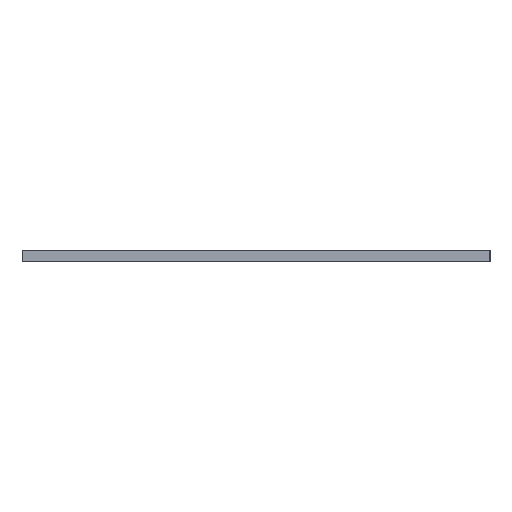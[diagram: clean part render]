
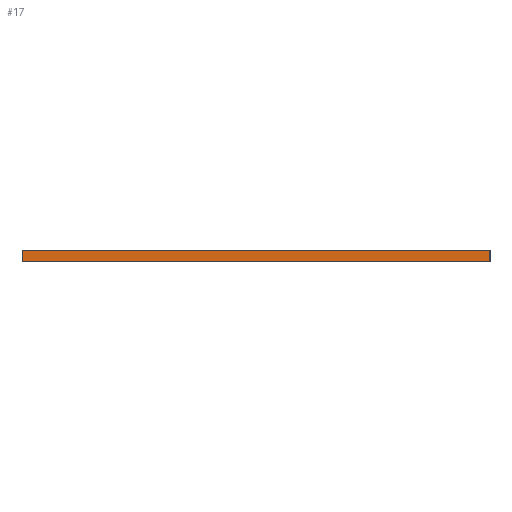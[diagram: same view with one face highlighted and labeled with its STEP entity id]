
A CAD part, left-side view. The second image highlights one B-rep face of the part: STEP entity #17.
In plain terms, the highlighted planar face has unit normal (-1, 0, 0).
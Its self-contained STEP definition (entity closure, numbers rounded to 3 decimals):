
#17 = ADVANCED_FACE('',(#18),#32,.F.);
#18 = FACE_BOUND('',#19,.F.);
#19 = EDGE_LOOP('',(#20,#55,#83,#111));
#20 = ORIENTED_EDGE('',*,*,#21,.F.);
#21 = EDGE_CURVE('',#22,#24,#26,.T.);
#22 = VERTEX_POINT('',#23);
#23 = CARTESIAN_POINT('',(-61.5,-33.925,17.875));
#24 = VERTEX_POINT('',#25);
#25 = CARTESIAN_POINT('',(-61.5,-33.925,19.475));
#26 = SURFACE_CURVE('',#27,(#31,#43),.PCURVE_S1.);
#27 = LINE('',#28,#29);
#28 = CARTESIAN_POINT('',(-61.5,-33.925,17.875));
#29 = VECTOR('',#30,1.);
#30 = DIRECTION('',(0.,0.,1.));
#31 = PCURVE('',#32,#37);
#32 = PLANE('',#33);
#33 = AXIS2_PLACEMENT_3D('',#34,#35,#36);
#34 = CARTESIAN_POINT('',(-61.5,-33.925,17.875));
#35 = DIRECTION('',(1.,0.,0.));
#36 = DIRECTION('',(0.,0.,1.));
#37 = DEFINITIONAL_REPRESENTATION('',(#38),#42);
#38 = LINE('',#39,#40);
#39 = CARTESIAN_POINT('',(0.,0.));
#40 = VECTOR('',#41,1.);
#41 = DIRECTION('',(1.,0.));
#42 = ( GEOMETRIC_REPRESENTATION_CONTEXT(2) 
PARAMETRIC_REPRESENTATION_CONTEXT() REPRESENTATION_CONTEXT('2D SPACE',''
  ) );
#43 = PCURVE('',#44,#49);
#44 = PLANE('',#45);
#45 = AXIS2_PLACEMENT_3D('',#46,#47,#48);
#46 = CARTESIAN_POINT('',(-61.5,-33.925,17.875));
#47 = DIRECTION('',(0.,1.,0.));
#48 = DIRECTION('',(0.,0.,1.));
#49 = DEFINITIONAL_REPRESENTATION('',(#50),#54);
#50 = LINE('',#51,#52);
#51 = CARTESIAN_POINT('',(0.,0.));
#52 = VECTOR('',#53,1.);
#53 = DIRECTION('',(1.,0.));
#54 = ( GEOMETRIC_REPRESENTATION_CONTEXT(2) 
PARAMETRIC_REPRESENTATION_CONTEXT() REPRESENTATION_CONTEXT('2D SPACE',''
  ) );
#55 = ORIENTED_EDGE('',*,*,#56,.T.);
#56 = EDGE_CURVE('',#22,#57,#59,.T.);
#57 = VERTEX_POINT('',#58);
#58 = CARTESIAN_POINT('',(-61.5,33.925,17.875));
#59 = SURFACE_CURVE('',#60,(#64,#71),.PCURVE_S1.);
#60 = LINE('',#61,#62);
#61 = CARTESIAN_POINT('',(-61.5,-33.925,17.875));
#62 = VECTOR('',#63,1.);
#63 = DIRECTION('',(0.,1.,0.));
#64 = PCURVE('',#32,#65);
#65 = DEFINITIONAL_REPRESENTATION('',(#66),#70);
#66 = LINE('',#67,#68);
#67 = CARTESIAN_POINT('',(0.,0.));
#68 = VECTOR('',#69,1.);
#69 = DIRECTION('',(0.,-1.));
#70 = ( GEOMETRIC_REPRESENTATION_CONTEXT(2) 
PARAMETRIC_REPRESENTATION_CONTEXT() REPRESENTATION_CONTEXT('2D SPACE',''
  ) );
#71 = PCURVE('',#72,#77);
#72 = PLANE('',#73);
#73 = AXIS2_PLACEMENT_3D('',#74,#75,#76);
#74 = CARTESIAN_POINT('',(-61.5,-33.925,17.875));
#75 = DIRECTION('',(0.,0.,1.));
#76 = DIRECTION('',(1.,0.,0.));
#77 = DEFINITIONAL_REPRESENTATION('',(#78),#82);
#78 = LINE('',#79,#80);
#79 = CARTESIAN_POINT('',(0.,0.));
#80 = VECTOR('',#81,1.);
#81 = DIRECTION('',(0.,1.));
#82 = ( GEOMETRIC_REPRESENTATION_CONTEXT(2) 
PARAMETRIC_REPRESENTATION_CONTEXT() REPRESENTATION_CONTEXT('2D SPACE',''
  ) );
#83 = ORIENTED_EDGE('',*,*,#84,.T.);
#84 = EDGE_CURVE('',#57,#85,#87,.T.);
#85 = VERTEX_POINT('',#86);
#86 = CARTESIAN_POINT('',(-61.5,33.925,19.475));
#87 = SURFACE_CURVE('',#88,(#92,#99),.PCURVE_S1.);
#88 = LINE('',#89,#90);
#89 = CARTESIAN_POINT('',(-61.5,33.925,17.875));
#90 = VECTOR('',#91,1.);
#91 = DIRECTION('',(0.,0.,1.));
#92 = PCURVE('',#32,#93);
#93 = DEFINITIONAL_REPRESENTATION('',(#94),#98);
#94 = LINE('',#95,#96);
#95 = CARTESIAN_POINT('',(0.,-67.85));
#96 = VECTOR('',#97,1.);
#97 = DIRECTION('',(1.,0.));
#98 = ( GEOMETRIC_REPRESENTATION_CONTEXT(2) 
PARAMETRIC_REPRESENTATION_CONTEXT() REPRESENTATION_CONTEXT('2D SPACE',''
  ) );
#99 = PCURVE('',#100,#105);
#100 = PLANE('',#101);
#101 = AXIS2_PLACEMENT_3D('',#102,#103,#104);
#102 = CARTESIAN_POINT('',(-61.5,33.925,17.875));
#103 = DIRECTION('',(0.,1.,0.));
#104 = DIRECTION('',(0.,0.,1.));
#105 = DEFINITIONAL_REPRESENTATION('',(#106),#110);
#106 = LINE('',#107,#108);
#107 = CARTESIAN_POINT('',(0.,0.));
#108 = VECTOR('',#109,1.);
#109 = DIRECTION('',(1.,0.));
#110 = ( GEOMETRIC_REPRESENTATION_CONTEXT(2) 
PARAMETRIC_REPRESENTATION_CONTEXT() REPRESENTATION_CONTEXT('2D SPACE',''
  ) );
#111 = ORIENTED_EDGE('',*,*,#112,.F.);
#112 = EDGE_CURVE('',#24,#85,#113,.T.);
#113 = SURFACE_CURVE('',#114,(#118,#125),.PCURVE_S1.);
#114 = LINE('',#115,#116);
#115 = CARTESIAN_POINT('',(-61.5,-33.925,19.475));
#116 = VECTOR('',#117,1.);
#117 = DIRECTION('',(0.,1.,0.));
#118 = PCURVE('',#32,#119);
#119 = DEFINITIONAL_REPRESENTATION('',(#120),#124);
#120 = LINE('',#121,#122);
#121 = CARTESIAN_POINT('',(1.6,0.));
#122 = VECTOR('',#123,1.);
#123 = DIRECTION('',(0.,-1.));
#124 = ( GEOMETRIC_REPRESENTATION_CONTEXT(2) 
PARAMETRIC_REPRESENTATION_CONTEXT() REPRESENTATION_CONTEXT('2D SPACE',''
  ) );
#125 = PCURVE('',#126,#131);
#126 = PLANE('',#127);
#127 = AXIS2_PLACEMENT_3D('',#128,#129,#130);
#128 = CARTESIAN_POINT('',(-61.5,-33.925,19.475));
#129 = DIRECTION('',(0.,0.,1.));
#130 = DIRECTION('',(1.,0.,0.));
#131 = DEFINITIONAL_REPRESENTATION('',(#132),#136);
#132 = LINE('',#133,#134);
#133 = CARTESIAN_POINT('',(0.,0.));
#134 = VECTOR('',#135,1.);
#135 = DIRECTION('',(0.,1.));
#136 = ( GEOMETRIC_REPRESENTATION_CONTEXT(2) 
PARAMETRIC_REPRESENTATION_CONTEXT() REPRESENTATION_CONTEXT('2D SPACE',''
  ) );
